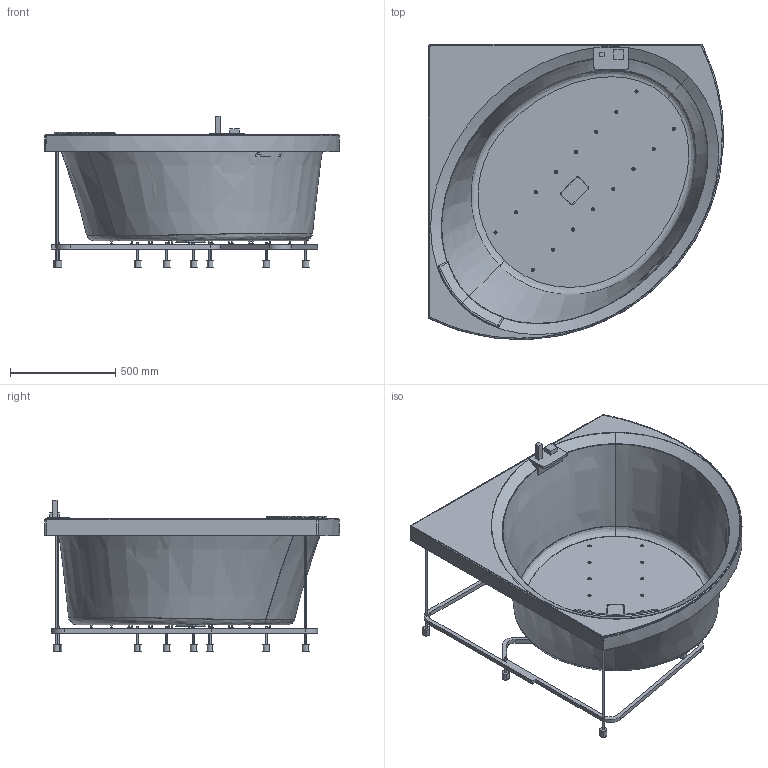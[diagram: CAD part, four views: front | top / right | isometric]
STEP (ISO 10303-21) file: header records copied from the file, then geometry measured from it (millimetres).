
FILE_DESCRIPTION(('STEP AP203'),'2;1');
FILE_NAME('DIVY140140O2-A0K.stp','2016-02-24T17:34:11',(''),(''),'2014.1.117','THINKDESIGN','');
FILE_SCHEMA(('CONFIG_CONTROL_DESIGN'));
Length unit declared in the file: millimetre
Bounding box: 1399.06 x 1399.06 x 716.4 mm (x, y, z)
Volume: 14410454.6 mm3; surface area: 7812126 mm2
Topology: 22 solids, 22 shells, 475 faces, 1066 edges, 678 vertices
Faces by surface type: cylinder 227, plane 157, bspline 91
Entity records: 21106 total; most frequent: CARTESIAN_POINT 10469, DIRECTION 2216, ORIENTED_EDGE 2116, EDGE_CURVE 1058, AXIS2_PLACEMENT_3D 878, VERTEX_POINT 678, EDGE_LOOP 562, CIRCLE 494
